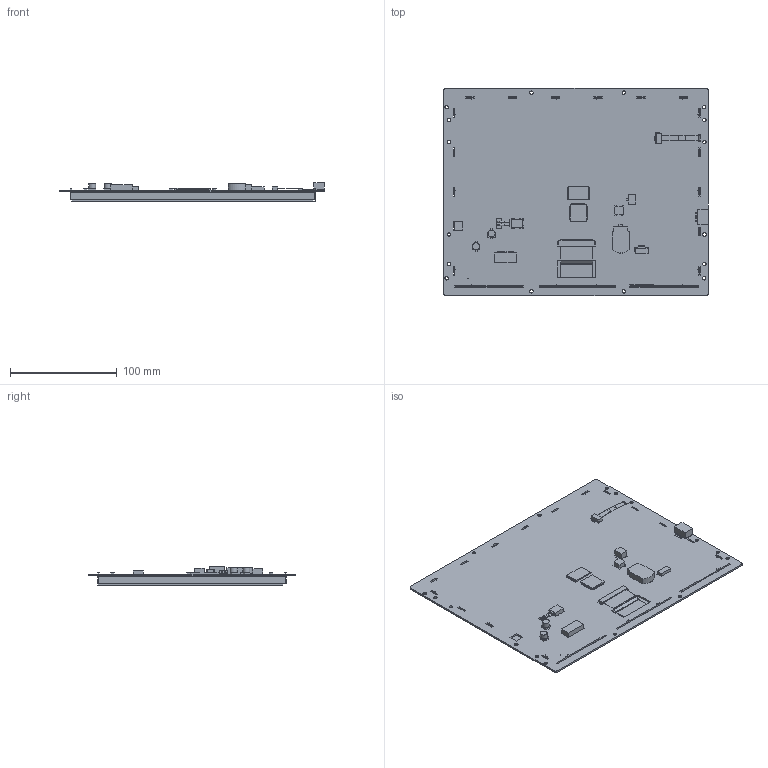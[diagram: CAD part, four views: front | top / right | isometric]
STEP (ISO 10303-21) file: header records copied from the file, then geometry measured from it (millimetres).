
FILE_DESCRIPTION(/* description */ (''),/* implementation_level */ '2;1');
FILE_NAME(/* name */ '3D_SDWe104T87T.stp',/* time_stamp */ '2020-09-25T16:03:40+08:00',/* author */ (''),/* organization */ (''),/* preprocessor_version */ 'ST-DEVELOPER v15',/* originating_system */ 'SIEMENS PLM Software NX 8.5',/* authorisation */ '');
FILE_SCHEMA (('AP203_CONFIGURATION_CONTROLLED_3D_DESIGN_OF_MECHANICAL_PARTS_AND_ASSEMBLIES_MIM_LF { 1 0 10303 403 2 1 2}'));
Length unit declared in the file: millimetre
Products named in the file (1): SDWe104T87
Bounding box: 247.8 x 193.7 x 17.42 mm (x, y, z)
Volume: 380694.1 mm3; surface area: 370484.2 mm2
Topology: 361 solids, 361 shells, 2414 faces, 5074 edges, 3382 vertices
Faces by surface type: plane 2283, cylinder 113, extrusion 10, torus 8
Full cylindrical faces by diameter (mm): 0.406 x1, 0.711 x1, 1 x8, 3.2 x16, 6.565 x2
Entity records: 67970 total; most frequent: CARTESIAN_POINT 11357, ORIENTED_EDGE 10072, DIRECTION 10038, EDGE_CURVE 5036, VECTOR 4732, LINE 4722, VERTEX_POINT 3378, AXIS2_PLACEMENT_3D 2653
